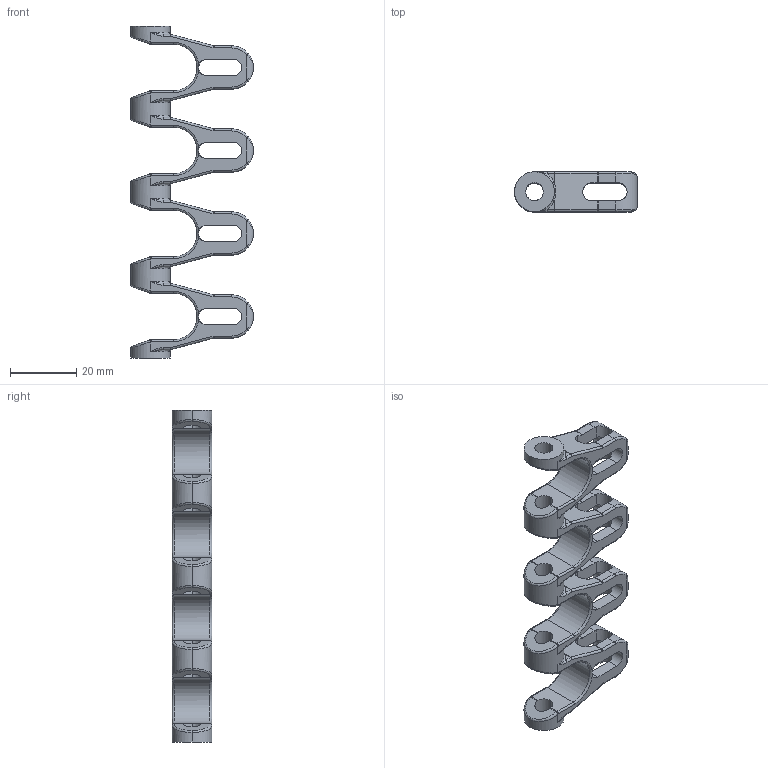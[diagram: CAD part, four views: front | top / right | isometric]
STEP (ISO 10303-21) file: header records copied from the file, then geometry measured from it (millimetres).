
FILE_DESCRIPTION((''),'2;1');
FILE_NAME('CM-S5-TV-25_70_C_100MM','2012-03-15T',('mdehate'),(''),'PRO/ENGINEER BY PARAMETRIC TECHNOLOGY CORPORATION, 2008490','PRO/ENGINEER BY PARAMETRIC TECHNOLOGY CORPORATION, 2008490','');
FILE_SCHEMA(('AUTOMOTIVE_DESIGN { 1 0 10303 214 1 1 1 1 }'));
Length unit declared in the file: millimetre
Products named in the file (1): CM-S5-TV-25_70_C_100MM
Bounding box: 37 x 12 x 100 mm (x, y, z)
Volume: 11305.5 mm3; surface area: 10081.6 mm2
Topology: 1 solids, 1 shells, 458 faces, 1196 edges, 708 vertices
Faces by surface type: cylinder 192, plane 98, bspline 96, torus 56, sphere 16
Entity records: 22157 total; most frequent: CARTESIAN_POINT 7580, ORIENTED_EDGE 2392, DIRECTION 2186, PRESENTATION_STYLE_ASSIGNMENT 1197, STYLED_ITEM 1197, CURVE_STYLE 1196, EDGE_CURVE 1196, AXIS2_PLACEMENT_3D 867
